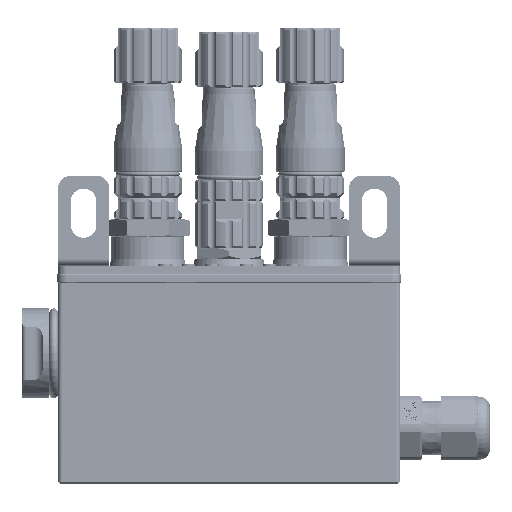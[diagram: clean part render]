
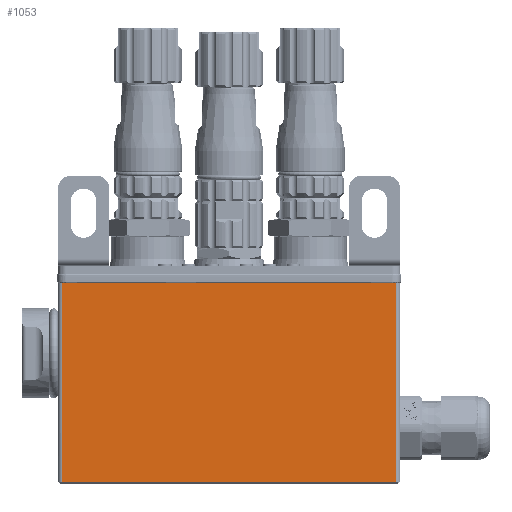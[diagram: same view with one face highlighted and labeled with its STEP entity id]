
A CAD part, front view. The second image highlights one B-rep face of the part: STEP entity #1053.
In plain terms, the highlighted planar face has unit normal (0, -1, 0) by its records, which use the part's own axes.
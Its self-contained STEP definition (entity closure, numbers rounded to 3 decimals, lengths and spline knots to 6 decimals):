
#1053=ADVANCED_FACE('0:1844',(#5598),#5599,.T.);
#5598=FACE_OUTER_BOUND('',#20626,.T.);
#5599=PLANE('',#20627);
#20626=EDGE_LOOP('',(#54479,#54480,#54481,#54482,#54483,#54484));
#20627=AXIS2_PLACEMENT_3D('',#54485,#54486,#54487);
#54479=ORIENTED_EDGE('',*,*,#78999,.F.);
#54480=ORIENTED_EDGE('',*,*,#80602,.T.);
#54481=ORIENTED_EDGE('',*,*,#80603,.T.);
#54482=ORIENTED_EDGE('',*,*,#80604,.T.);
#54483=ORIENTED_EDGE('',*,*,#79398,.F.);
#54484=ORIENTED_EDGE('',*,*,#80541,.F.);
#54485=CARTESIAN_POINT('',(0.,0.0,-0.0215));
#54486=DIRECTION('',(0.,-1.0,0.0));
#54487=DIRECTION('',(-1.0,0.,0.0));
#78999=EDGE_CURVE('0:3788',#89769,#89771,#89772,.T.);
#79398=EDGE_CURVE('0:3767',#90444,#90446,#90447,.T.);
#80541=EDGE_CURVE('0:7658',#89771,#90444,#92244,.T.);
#80602=EDGE_CURVE('0:7841',#89769,#92322,#92324,.F.);
#80603=EDGE_CURVE('0:7844',#92322,#92325,#92326,.F.);
#80604=EDGE_CURVE('0:7847',#92325,#90446,#92327,.F.);
#89769=VERTEX_POINT('',#126742);
#89771=VERTEX_POINT('',#126744);
#89772=LINE('',#126745,#126746);
#90444=VERTEX_POINT('',#127984);
#90446=VERTEX_POINT('',#127986);
#90447=LINE('',#127987,#127988);
#92244=LINE('',#136077,#136078);
#92322=VERTEX_POINT('',#136249);
#92324=LINE('',#136281,#136282);
#92325=VERTEX_POINT('',#136283);
#92326=LINE('',#136284,#136285);
#92327=LINE('',#136286,#136287);
#126742=CARTESIAN_POINT('',(0.039,0.,0.0235));
#126744=CARTESIAN_POINT('',(0.039,0.,-0.023));
#126745=CARTESIAN_POINT('',(0.039,0.,-0.0215));
#126746=VECTOR('',#232039,1.0);
#127984=CARTESIAN_POINT('',(-0.039,0.,-0.023));
#127986=CARTESIAN_POINT('',(-0.039,0.,0.0235));
#127987=CARTESIAN_POINT('',(-0.039,0.,-0.0215));
#127988=VECTOR('',#232873,1.0);
#136077=CARTESIAN_POINT('',(0.,0.0,-0.023));
#136078=VECTOR('',#234276,1.0);
#136249=CARTESIAN_POINT('',(0.038,0.,0.0235));
#136281=CARTESIAN_POINT('',(0.,0.0,0.0235));
#136282=VECTOR('',#234382,1.0);
#136283=CARTESIAN_POINT('',(-0.038,0.,0.0235));
#136284=CARTESIAN_POINT('',(0.,0.0,0.0235));
#136285=VECTOR('',#234383,1.0);
#136286=CARTESIAN_POINT('',(0.,0.0,0.0235));
#136287=VECTOR('',#234384,1.0);
#232039=DIRECTION('',(0.0,0.0,-1.0));
#232873=DIRECTION('',(0.0,0.0,1.0));
#234276=DIRECTION('',(-1.0,0.,0.0));
#234382=DIRECTION('',(1.0,0.,0.0));
#234383=DIRECTION('',(1.0,0.,0.0));
#234384=DIRECTION('',(1.0,0.,0.0));
